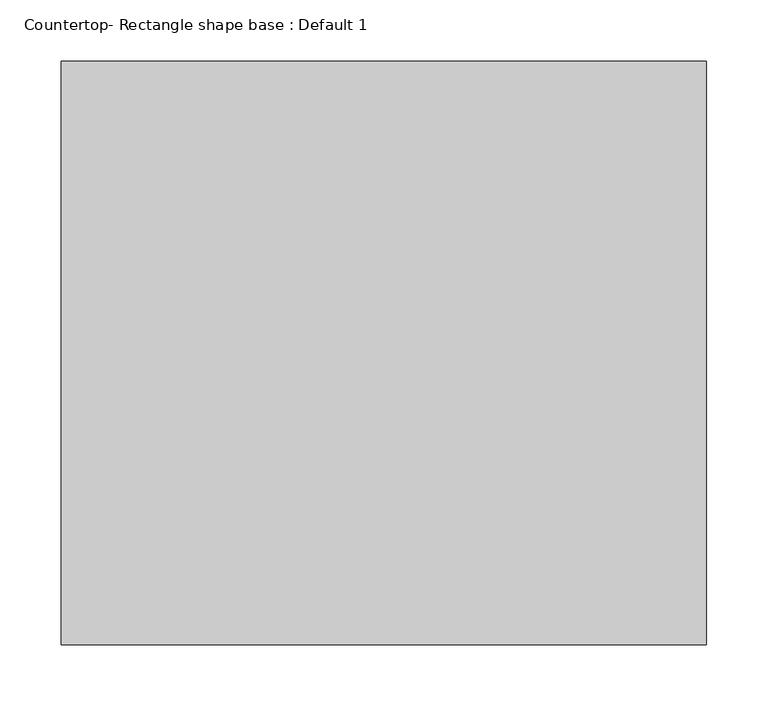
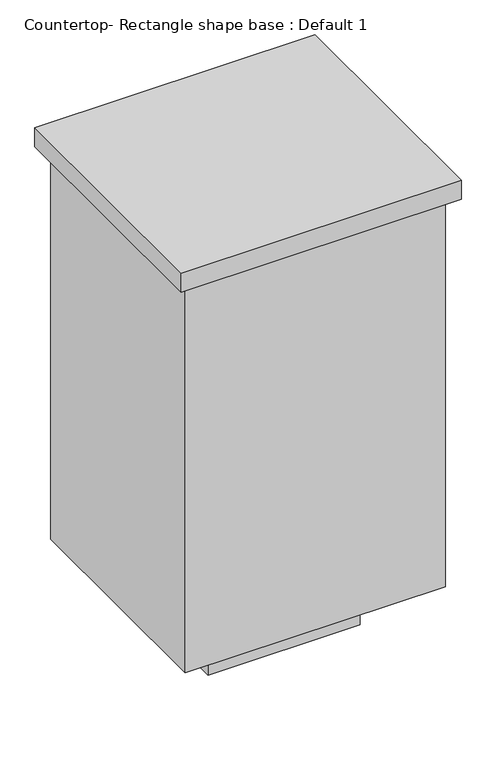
"""IFC4 building model written with IfcOpenShell, lengths in millimetres: proxy geometry, Countertop- Rectangle shape base : Default 1."""

from ifc_helpers import new_model, si_unit, frame, origin, origin_with_axes, place, context, project, spatial, polyline, outline, extrude, source, transform, mapped, element, save


def countertop_rectangle_shape_base_default_1_86df66de(model_context):
    return source(origin(), model_context, "Body", "SweptSolid", [
        extrude(outline(polyline([(498.475, 142.875), (498.475, 619.125), (1025.525, 619.125), (1025.525, 142.875), (498.475, 142.875)])), frame((0.0, 0.0, 876.3), z_axis=(0.0, 0.0, 1.0), x_axis=(1.0, 0.0, 0.0)), (0.0, 0.0, 1.0), 38.1),
        extrude(outline(polyline([(1006.475, 600.075), (1006.475, 161.925), (517.525, 161.925), (517.525, 600.075), (1006.475, 600.075)])), frame((0.0, 0.0, 101.6), z_axis=(0.0, 0.0, 1.0), x_axis=(1.0, 0.0, 0.0)), (0.0, 0.0, 1.0), 774.7),
        extrude(outline(polyline([(904.875, 498.475), (904.875, 263.525), (619.125, 263.525), (619.125, 498.475), (904.875, 498.475)])), origin_with_axes(), (0.0, 0.0, 1.0), 101.6),
    ])


if __name__ == "__main__":
    model = new_model("IFC4")
    model_context = context("Model", 3, world=origin())
    ifc_project = project(units=[si_unit("LENGTHUNIT", "METRE", prefix="MILLI")], contexts=[model_context])
    site = spatial("IfcSite", under=ifc_project)
    building = spatial("IfcBuilding", under=site)
    placement = place(None, origin())
    countertop_rectangle_shape_base_default_1_shape = countertop_rectangle_shape_base_default_1_86df66de(model_context)
    element("IfcBuildingElementProxy", 1, Name="Countertop- Rectangle shape base : Default 1", ObjectType="Countertop- Rectangle shape base : Default 1", at=placement, inside=building, context=model_context, shape_type="MappedRepresentation", body=[
        mapped(countertop_rectangle_shape_base_default_1_shape, transform((0.0, 0.0, 0.0), x_axis=(1.0, 0.0, 0.0), y_axis=(0.0, 1.0, 0.0), z_axis=(0.0, 0.0, 1.0))),
    ])
    save(model, "model.ifc")
